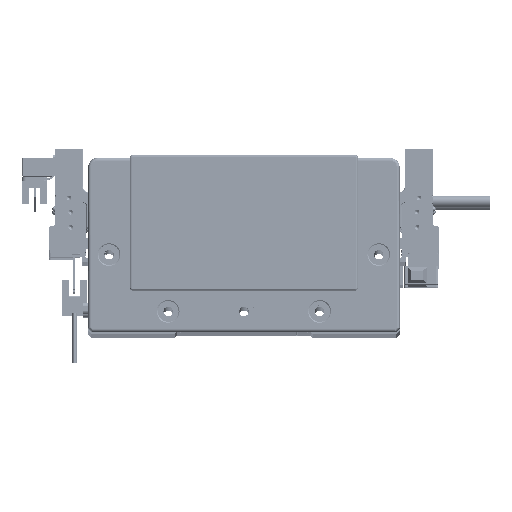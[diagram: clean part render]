
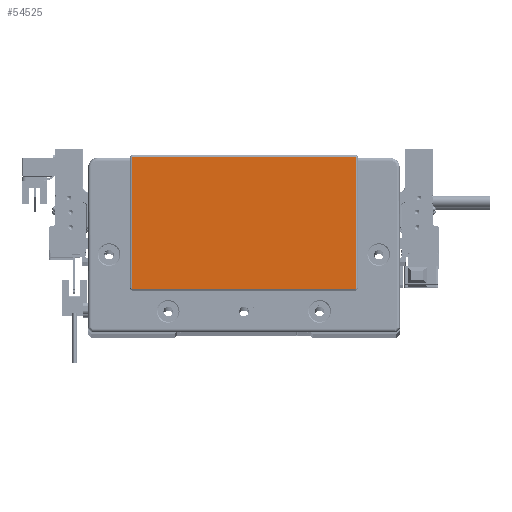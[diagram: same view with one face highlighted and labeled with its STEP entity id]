
A CAD part, top view. The second image highlights one B-rep face of the part: STEP entity #54525.
In plain terms, the highlighted planar face has unit normal (0, 0, 1) as drawn and (0, 0, -1) by its records, which use the part's own axes.
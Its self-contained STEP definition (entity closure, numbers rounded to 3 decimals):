
#4022 = CARTESIAN_POINT ( 'NONE',  ( 59.25, -23.3, -2. ) ) ;
#4620 = VECTOR ( 'NONE', #83340, 1000. ) ;
#10173 = LINE ( 'NONE', #72410, #26303 ) ;
#13462 = CIRCLE ( 'NONE', #24997, 0.5 ) ;
#14024 = ORIENTED_EDGE ( 'NONE', *, *, #48288, .T. ) ;
#14162 = DIRECTION ( 'NONE',  ( -1., 0., 0. ) ) ;
#15698 = ORIENTED_EDGE ( 'NONE', *, *, #17203, .T. ) ;
#17203 = EDGE_CURVE ( 'NONE', #54970, #62163, #45627, .T. ) ;
#18415 = VERTEX_POINT ( 'NONE', #100145 ) ;
#21711 = VERTEX_POINT ( 'NONE', #30945 ) ;
#22507 = ORIENTED_EDGE ( 'NONE', *, *, #82087, .T. ) ;
#23913 = DIRECTION ( 'NONE',  ( -1., 0., 0. ) ) ;
#24064 = AXIS2_PLACEMENT_3D ( 'NONE', #63780, #48366, #71015 ) ;
#24997 = AXIS2_PLACEMENT_3D ( 'NONE', #64930, #63902, #96285 ) ;
#26303 = VECTOR ( 'NONE', #49771, 1000. ) ;
#28087 = DIRECTION ( 'NONE',  ( 0., 0., -1. ) ) ;
#28645 = EDGE_CURVE ( 'NONE', #60982, #21711, #82848, .T. ) ;
#30945 = CARTESIAN_POINT ( 'NONE',  ( -59.25, 45.3, -2. ) ) ;
#32518 = CIRCLE ( 'NONE', #91633, 0.5 ) ;
#35480 = EDGE_LOOP ( 'NONE', ( #40413, #60758, #98667, #22507, #68224, #14024, #15698, #41952 ) ) ;
#35880 = CARTESIAN_POINT ( 'NONE',  ( -59.25, -23.3, -2. ) ) ;
#39678 = EDGE_CURVE ( 'NONE', #40128, #18415, #86028, .T. ) ;
#40128 = VERTEX_POINT ( 'NONE', #98789 ) ;
#40413 = ORIENTED_EDGE ( 'NONE', *, *, #73489, .T. ) ;
#41952 = ORIENTED_EDGE ( 'NONE', *, *, #56452, .T. ) ;
#42576 = DIRECTION ( 'NONE',  ( 0., -1., 0. ) ) ;
#45627 = LINE ( 'NONE', #53857, #57210 ) ;
#46659 = DIRECTION ( 'NONE',  ( 1., 0., 0. ) ) ;
#48073 = PLANE ( 'NONE',  #50515 ) ;
#48288 = EDGE_CURVE ( 'NONE', #21711, #54970, #13462, .T. ) ;
#48366 = DIRECTION ( 'NONE',  ( 0., 0., -1. ) ) ;
#49771 = DIRECTION ( 'NONE',  ( -1., 0., 0. ) ) ;
#50309 = LINE ( 'NONE', #4022, #64387 ) ;
#50515 = AXIS2_PLACEMENT_3D ( 'NONE', #94375, #78931, #23913 ) ;
#53857 = CARTESIAN_POINT ( 'NONE',  ( 58.75, 45.8, -2. ) ) ;
#54525 = ADVANCED_FACE ( 'NONE', ( #94867 ), #48073, .T. ) ;
#54970 = VERTEX_POINT ( 'NONE', #94742 ) ;
#56452 = EDGE_CURVE ( 'NONE', #62163, #56643, #65123, .T. ) ;
#56643 = VERTEX_POINT ( 'NONE', #96666 ) ;
#57210 = VECTOR ( 'NONE', #46659, 1000. ) ;
#60738 = CARTESIAN_POINT ( 'NONE',  ( -59.25, 45.3, -2. ) ) ;
#60758 = ORIENTED_EDGE ( 'NONE', *, *, #39678, .T. ) ;
#60982 = VERTEX_POINT ( 'NONE', #35880 ) ;
#62163 = VERTEX_POINT ( 'NONE', #87176 ) ;
#63780 = CARTESIAN_POINT ( 'NONE',  ( 58.75, 45.3, -2. ) ) ;
#63902 = DIRECTION ( 'NONE',  ( 0., 0., -1. ) ) ;
#64387 = VECTOR ( 'NONE', #42576, 1000. ) ;
#64930 = CARTESIAN_POINT ( 'NONE',  ( -58.75, 45.3, -2. ) ) ;
#65123 = CIRCLE ( 'NONE', #24064, 0.5 ) ;
#67956 = AXIS2_PLACEMENT_3D ( 'NONE', #81099, #28087, #73886 ) ;
#68224 = ORIENTED_EDGE ( 'NONE', *, *, #28645, .T. ) ;
#69829 = EDGE_CURVE ( 'NONE', #18415, #91658, #10173, .T. ) ;
#71015 = DIRECTION ( 'NONE',  ( -1., 0., 0. ) ) ;
#72410 = CARTESIAN_POINT ( 'NONE',  ( -58.75, -23.8, -2. ) ) ;
#73489 = EDGE_CURVE ( 'NONE', #56643, #40128, #50309, .T. ) ;
#73886 = DIRECTION ( 'NONE',  ( -1., 0., 0. ) ) ;
#78931 = DIRECTION ( 'NONE',  ( 0., 0., -1. ) ) ;
#81099 = CARTESIAN_POINT ( 'NONE',  ( 58.75, -23.3, -2. ) ) ;
#82087 = EDGE_CURVE ( 'NONE', #91658, #60982, #32518, .T. ) ;
#82848 = LINE ( 'NONE', #60738, #4620 ) ;
#83340 = DIRECTION ( 'NONE',  ( 0., 1., 0. ) ) ;
#86028 = CIRCLE ( 'NONE', #67956, 0.5 ) ;
#87176 = CARTESIAN_POINT ( 'NONE',  ( 58.75, 45.8, -2. ) ) ;
#88069 = CARTESIAN_POINT ( 'NONE',  ( -58.75, -23.8, -2. ) ) ;
#91633 = AXIS2_PLACEMENT_3D ( 'NONE', #92367, #92856, #14162 ) ;
#91658 = VERTEX_POINT ( 'NONE', #88069 ) ;
#92367 = CARTESIAN_POINT ( 'NONE',  ( -58.75, -23.3, -2. ) ) ;
#92856 = DIRECTION ( 'NONE',  ( 0., 0., -1. ) ) ;
#94375 = CARTESIAN_POINT ( 'NONE',  ( 0., 0., -2. ) ) ;
#94742 = CARTESIAN_POINT ( 'NONE',  ( -58.75, 45.8, -2. ) ) ;
#94867 = FACE_OUTER_BOUND ( 'NONE', #35480, .T. ) ;
#96285 = DIRECTION ( 'NONE',  ( -1., 0., 0. ) ) ;
#96666 = CARTESIAN_POINT ( 'NONE',  ( 59.25, 45.3, -2. ) ) ;
#98667 = ORIENTED_EDGE ( 'NONE', *, *, #69829, .T. ) ;
#98789 = CARTESIAN_POINT ( 'NONE',  ( 59.25, -23.3, -2. ) ) ;
#100145 = CARTESIAN_POINT ( 'NONE',  ( 58.75, -23.8, -2. ) ) ;
